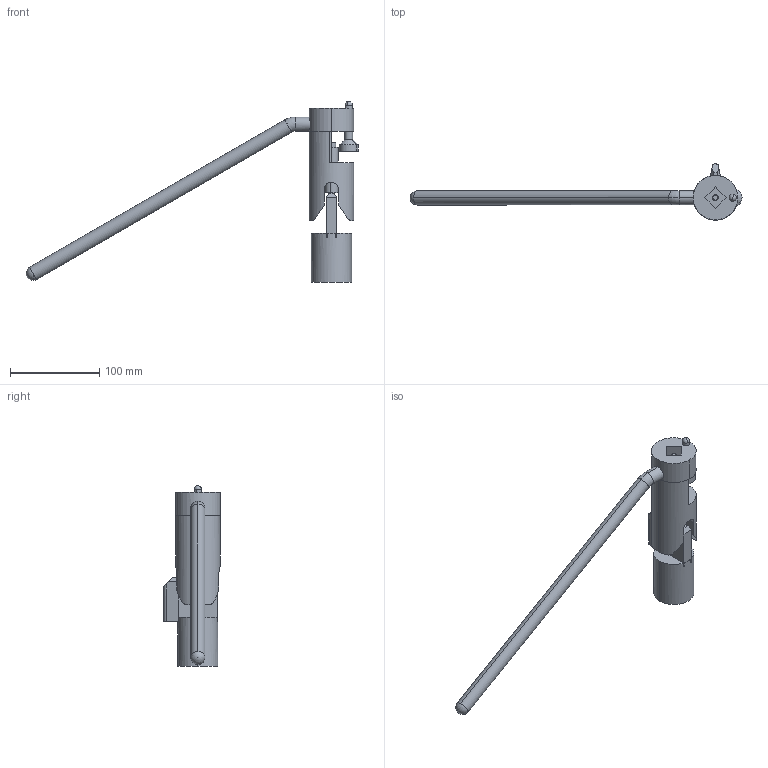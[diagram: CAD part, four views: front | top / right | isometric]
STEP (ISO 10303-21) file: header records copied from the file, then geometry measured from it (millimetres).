
FILE_DESCRIPTION (( 'STEP AP203' ), '1' );
FILE_NAME ('BG.STEP', '2010-09-21T07:16:00', ( 'sl' ), ( 'sl' ), 'SwSTEP 2.0', 'SolidWorks 2010', '' );
FILE_SCHEMA (( 'CONFIG_CONTROL_DESIGN' ));
Length unit declared in the file: millimetre
Products named in the file (10): BG; X_5016379~0; X_5016202~0; X_5016201~0; X_5016386~0; X_5016203~0; X_5016215~0_vereinfacht<Standard>; X_5016387~0; X_5016788~0; 103122_NIROSTA_Federnde_Druckstuecke_GN_615_M6_KN_PFB__Nirosta
Assembly tree (9 placements, depth 2):
  BG
    X_5016387~0
    X_5016201~0
    X_5016788~0
    X_5016202~0
    X_5016203~0
    X_5016215~0_vereinfacht<Standard>
    X_5016386~0
    X_5016379~0
    103122_NIROSTA_Federnde_Druckstuecke_GN_615_M6_KN_PFB__Nirosta
Bounding box: 371.81 x 63 x 202.63 mm (x, y, z)
Volume: 356856 mm3; surface area: 75559.7 mm2
Topology: 10 solids, 10 shells, 145 faces, 338 edges, 215 vertices
Faces by surface type: plane 70, cylinder 53, cone 12, sphere 6, torus 2, bspline 2
Entity records: 6945 total; most frequent: CARTESIAN_POINT 2549, DIRECTION 739, ORIENTED_EDGE 664, EDGE_CURVE 332, AXIS2_PLACEMENT_3D 282, VERTEX_POINT 214, VECTOR 175, LINE 175
